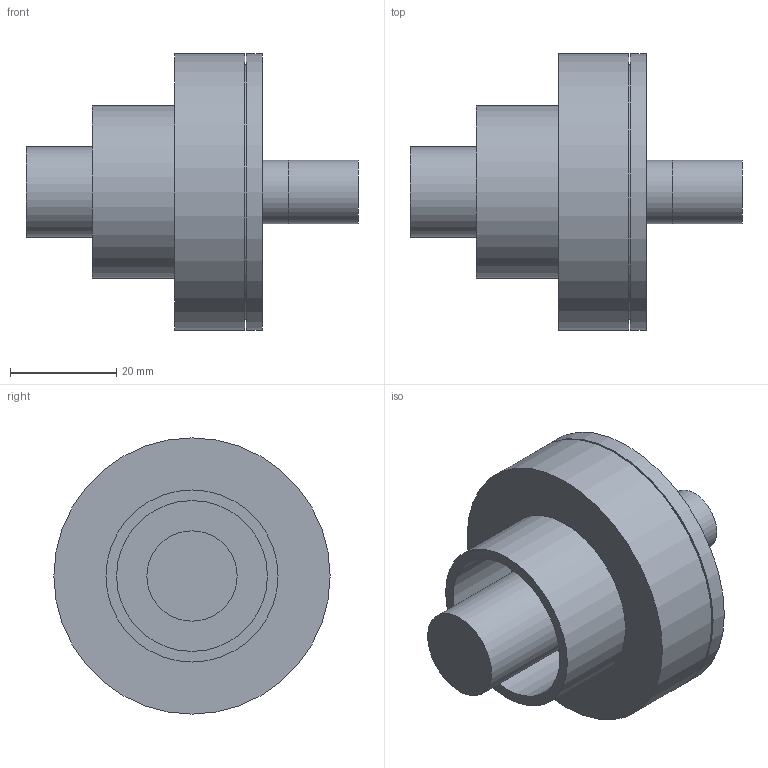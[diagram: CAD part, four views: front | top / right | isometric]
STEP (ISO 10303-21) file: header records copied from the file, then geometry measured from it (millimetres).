
FILE_DESCRIPTION(('Open CASCADE Model'),'2;1');
FILE_NAME('Open CASCADE Shape Model','2026-10-24T14:13:33',('Author'),( 'Open CASCADE'),'Open CASCADE STEP processor 7.9','Open CASCADE 7.9' ,'Unknown');
FILE_SCHEMA(('AUTOMOTIVE_DESIGN { 1 0 10303 214 1 1 1 1 }'));
Length unit declared in the file: millimetre
Products named in the file (8): MPx_Squeeze_v2; P01; P02; P02c; P03f; P03d; P04; P05
Assembly tree (7 placements, depth 2):
  MPx_Squeeze_v2
    P01
    P02
    P02c
    P03f
    P03d
    P04
    P05
Bounding box: 62.5 x 52 x 52 mm (x, y, z)
Volume: 26313.8 mm3; surface area: 29469.9 mm2
Topology: 7 solids, 7 shells, 161 faces, 380 edges, 247 vertices
Faces by surface type: plane 118, cylinder 43
Full cylindrical faces by diameter (mm): 2 x1, 3 x1, 3.5 x1, 3.55 x1, 9 x2, 12 x3, 15 x2, 15.6 x1, 17 x2, 28.4 x1, 32.4 x1, 38.5 x1, 40 x2, 40.05 x1, 40.5 x2, 43.5 x2, 44 x1, 45 x1, 48 x2, 48.4 x1, 52 x2
Entity records: 9389 total; most frequent: CARTESIAN_POINT 1617, DIRECTION 1449, LINE 814, VECTOR 814, ORIENTED_EDGE 728, PCURVE 728, DEFINITIONAL_REPRESENTATION 728, EDGE_CURVE 364
